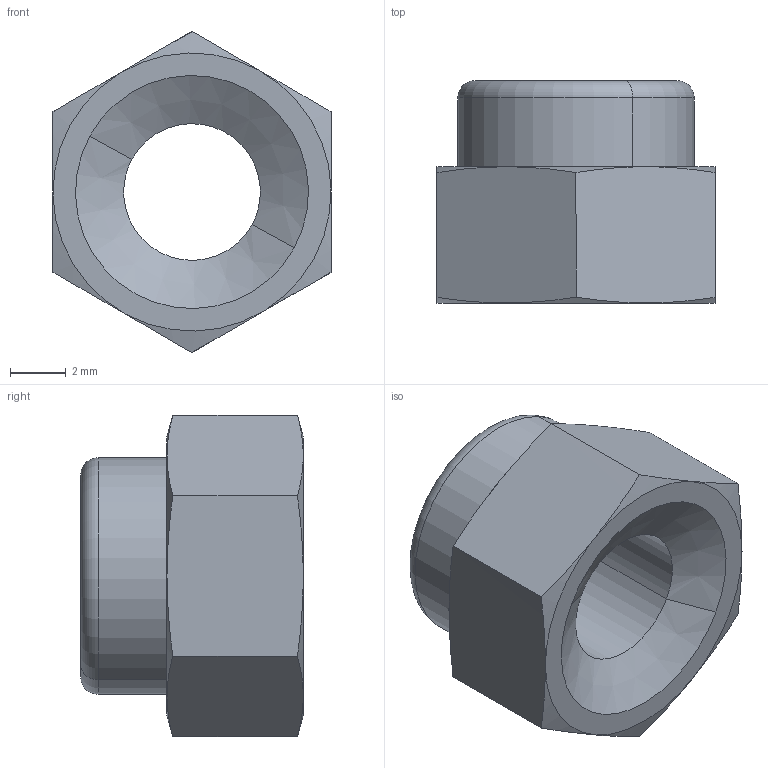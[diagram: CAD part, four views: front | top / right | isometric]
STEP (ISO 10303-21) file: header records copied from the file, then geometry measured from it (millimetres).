
FILE_DESCRIPTION(('3DEXPERIENCE STEP','CAx-IF Rec.Pracs.--- Model Styling and Organization---1.5--- 2016-08-15','CAx-IF Rec.Pracs.---Supplemental Geometry---1.0---2011-11-01','CAx-IF Rec.Pracs.--- Composite Materials ---3.4---2017-06-13','CAx-IF Rec.Pracs.---Tessellated 3D Geometry---1.0---2015-12-17'),'2;1');
FILE_NAME('\\?\D:\School\CarTech\CTU.25\Tutorials\Model\OEM\Nut_M6.stp','2024-09-26T02:50:15+00:00',('none'),('none'),'3DEXPERIENCE Platform3DEXPERIENCE R2024x HotFix 4.24','3DEXPERIENCE Platform STEP AP242 v3','none');
FILE_SCHEMA(('AP242_MANAGED_MODEL_BASED_3D_ENGINEERING_MIM_LF {1 0 10303 442 1 1 4}'));
Length unit declared in the file: millimetre
Products named in the file (1): Nut_ISO_7040-M6_1
Bounding box: 10 x 8 x 11.55 mm (x, y, z)
Volume: 367.4 mm3; surface area: 536.5 mm2
Topology: 1 solids, 1 shells, 27 faces, 62 edges, 40 vertices
Faces by surface type: plane 11, cylinder 8, cone 6, torus 2
Entity records: 915 total; most frequent: CARTESIAN_POINT 350, ORIENTED_EDGE 124, DIRECTION 80, EDGE_CURVE 62, AXIS2_PLACEMENT_3D 42, VERTEX_POINT 40, EDGE_LOOP 32, ADVANCED_FACE 27
